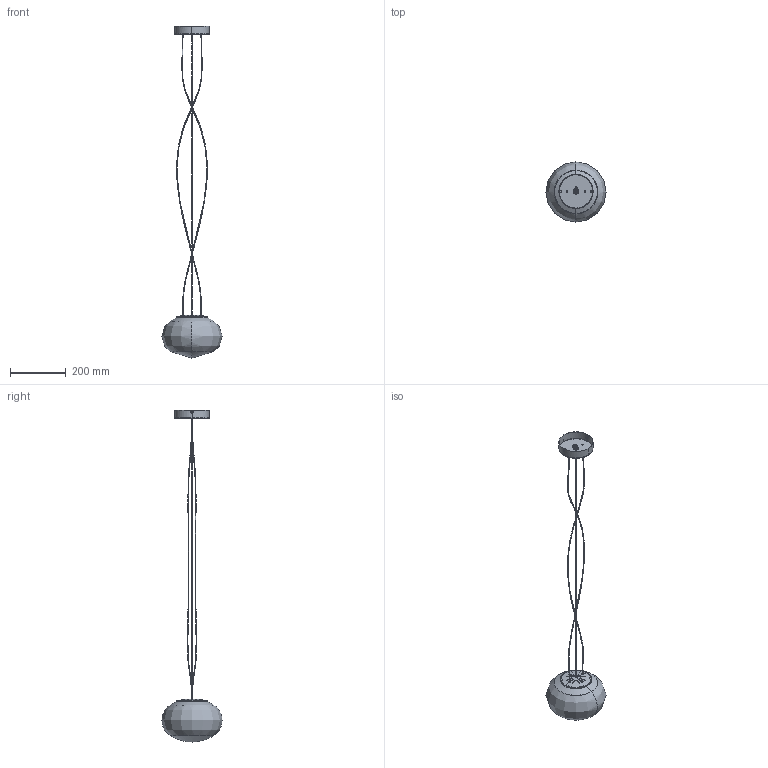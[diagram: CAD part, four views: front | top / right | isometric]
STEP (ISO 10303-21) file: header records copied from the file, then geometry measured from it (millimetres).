
FILE_DESCRIPTION(/* description */ (''),/* implementation_level */ '2;1');
FILE_NAME(/* name */ 'L065__.022.0401',/* time_stamp */ '2024-08-30T16:14:48+02:00',/* author */ (''),/* organization */ (''),/* preprocessor_version */ 'ST-DEVELOPER v16.5',/* originating_system */ '',/* authorisation */ '');
FILE_SCHEMA (('AUTOMOTIVE_DESIGN'));
Length unit declared in the file: millimetre
Products named in the file (1): Document
Bounding box: 215 x 215 x 1186.32 mm (x, y, z)
Volume: 370549.6 mm3; surface area: 308131 mm2
Topology: 22 solids, 22 shells, 633 faces, 1598 edges, 969 vertices
Faces by surface type: bspline 419, plane 214
Entity records: 32571 total; most frequent: CARTESIAN_POINT 23232, ORIENTED_EDGE 3132, EDGE_CURVE 1566, VERTEX_POINT 969, B_SPLINE_CURVE_WITH_KNOTS 883, EDGE_LOOP 687, ADVANCED_FACE 633, FACE_OUTER_BOUND 633
